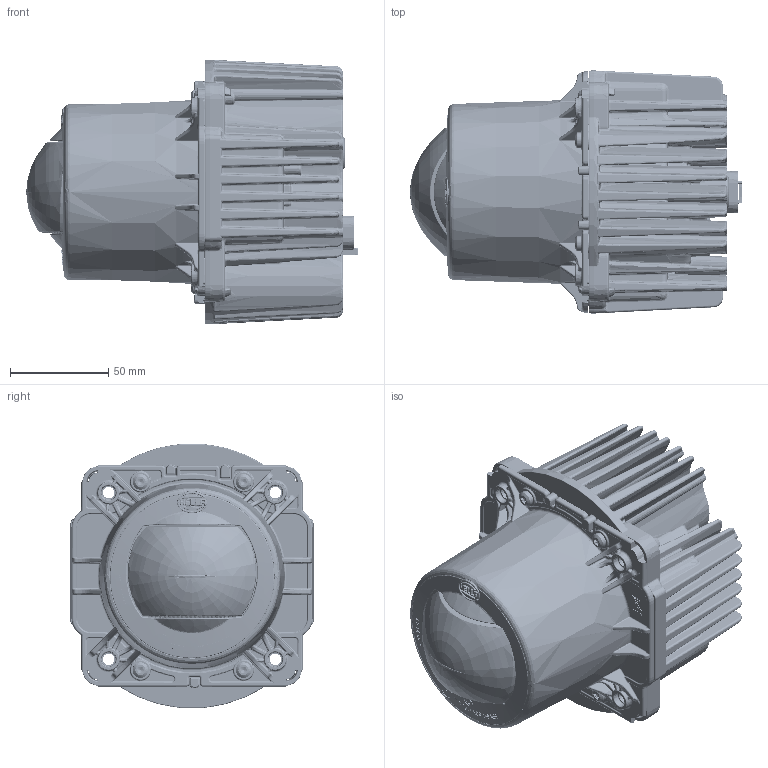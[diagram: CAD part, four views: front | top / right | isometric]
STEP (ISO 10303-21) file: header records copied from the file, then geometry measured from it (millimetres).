
FILE_DESCRIPTION(('CATIA V5 STEP Exchange','CAx-IF Rec.Pracs.--- Model Styling and Organization---1.5--- 2016-08-15','CAx-IF Rec.Pracs.---Supplemental Geometry---1.0---2011-11-01','CAx-IF Rec.Pracs.---Representation and Presentation of Product Manufacturing Information (PMI)---4.0---2014-10-13','CAx-IF Rec.Pracs.--- Composite Materials ---3.4---2017-06-13','CAx-IF Rec.Pracs.---Tessellated 3D Geometry---1.0---2015-12-17'),'2;1');
FILE_NAME('C:\Data\DDx\2025\19.05\015318-00.stp','2025-05-19T11:13:48+00:00',('none'),('none'),'CATIA Version 5-6 Release 2022 SP3 HF41','CATIA V5 STEP AP242 v2','none');
FILE_SCHEMA(('AP242_MANAGED_MODEL_BASED_3D_ENGINEERING_MIM_LF {1 0 10303 442 3 1 4}'));
Length unit declared in the file: millimetre
Products named in the file (1): 10002700430_D10_001
Bounding box: 169.34 x 124 x 134.92 mm (x, y, z)
Volume: 1128074.3 mm3; surface area: 191182.8 mm2
Topology: 1 solids, 7 shells, 12264 faces, 30069 edges, 17342 vertices
Faces by surface type: bspline 5400, plane 1848, cylinder 1404, torus 1343, extrusion 980, cone 732, sphere 486, revolution 71
Entity records: 584284 total; most frequent: CARTESIAN_POINT 363482, ORIENTED_EDGE 58932, EDGE_CURVE 29466, DIRECTION 21258, B_SPLINE_CURVE_WITH_KNOTS 18010, VERTEX_POINT 17342, EDGE_LOOP 12468, ADVANCED_FACE 12264
